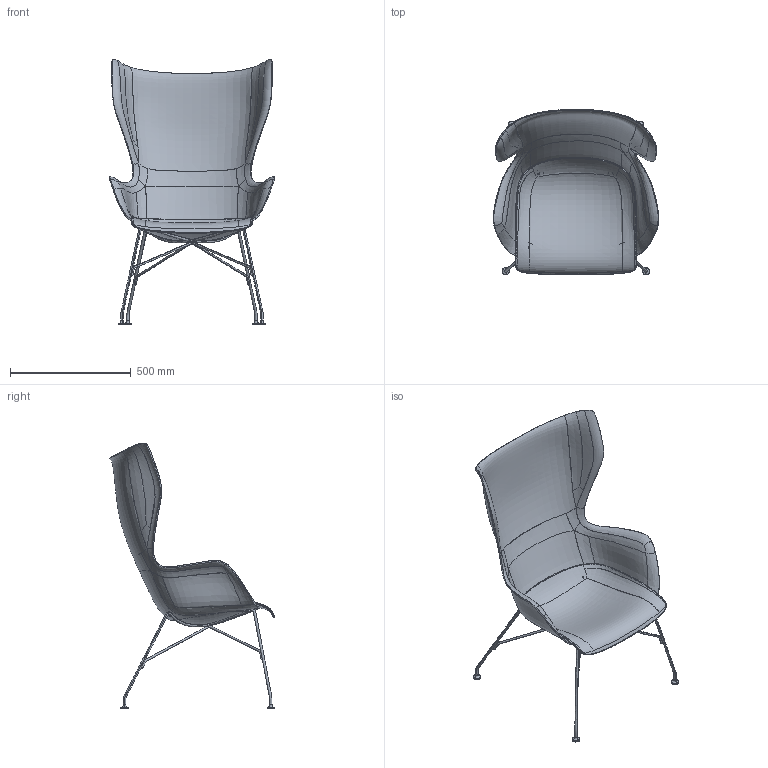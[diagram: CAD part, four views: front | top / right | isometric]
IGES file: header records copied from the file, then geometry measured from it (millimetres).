
Global section: file name: C:\Users\rendering\Desktop\3D\Woody\Kingwood\Kingwood_3D_Philippe Starck_Kartell.igs; native system: Rhinoceros ( May 22 2017 ); preprocessor: Trout Lake IGES 012 May 22 2017; date: 190227.100058; units: millimetre
Bounding box: 684.47 x 683.24 x 1100.12 mm (x, y, z)
Surface area: 2005851.5 mm2 (no closed solid volume)
Topology: 0 solids, 0 shells, 308 faces, 4921 edges, 4917 vertices
Faces by surface type: bspline 308
